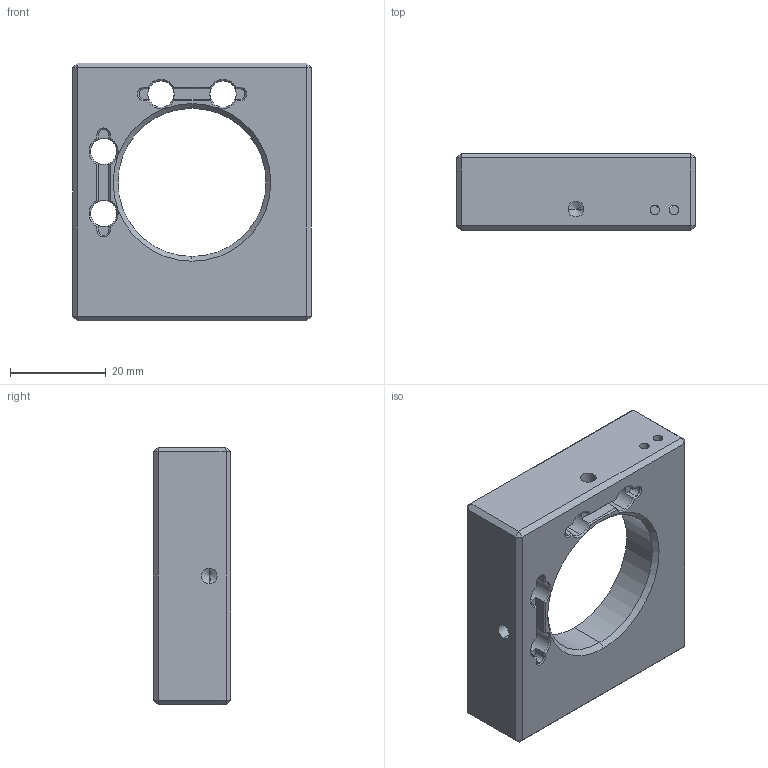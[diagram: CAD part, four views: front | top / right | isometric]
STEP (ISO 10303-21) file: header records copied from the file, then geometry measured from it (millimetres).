
FILE_DESCRIPTION (( 'STEP AP214' ), '1' );
FILE_NAME ('1.STEP', '2025-12-02T01:31:41', ( '' ), ( '' ), 'SwSTEP 2.0', 'SolidWorks 2024', '' );
FILE_SCHEMA (( 'AUTOMOTIVE_DESIGN' ));
Length unit declared in the file: millimetre
Products named in the file (1): 1
Bounding box: 50 x 16.2 x 54 mm (x, y, z)
Volume: 17563.3 mm3; surface area: 10643.9 mm2
Topology: 1 solids, 1 shells, 155 faces, 396 edges, 235 vertices
Faces by surface type: plane 75, cylinder 44, cone 36
Entity records: 4679 total; most frequent: CARTESIAN_POINT 841, DIRECTION 838, ORIENTED_EDGE 780, EDGE_CURVE 390, AXIS2_PLACEMENT_3D 312, VERTEX_POINT 235, VECTOR 214, LINE 214
